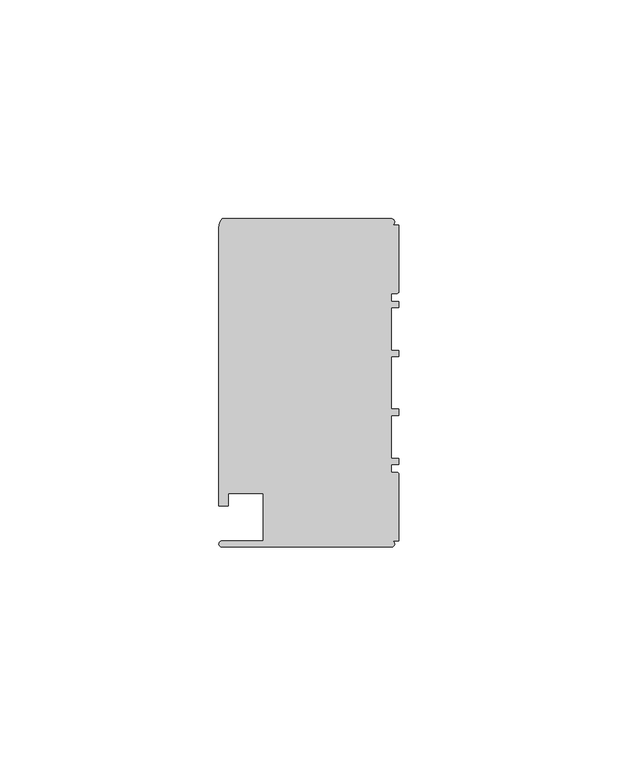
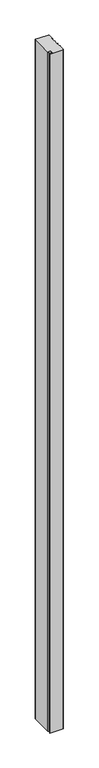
"""IFC4 building model written with IfcOpenShell, lengths in millimetres: member geometry, Прямоугольный импост : 1-AMG-1-Профиль 40Х75 Низ Л."""

from ifc_helpers import new_model, si_unit, point, frame, frame_2d, origin, place, context, project, spatial, polyline, circle_curve, trimmed, segment, composite_curve, outline, extrude, source, transform, mapped, element, save


def member_cca2f080(model_context):
    return source(origin(), model_context, "Body", "SweptSolid", [
        extrude(outline(composite_curve([segment(polyline([(-1.7, -37.5), (-40.4, -37.5)]), True, "CONTINUOUS"), segment(trimmed(circle_curve(frame_2d((-40.4, -36.8)), 0.7), [point((-40.4, -37.5))], [point((-40.4, -36.1))], False, "CARTESIAN"), True, "CONTINUOUS"), segment(polyline([(-40.4, -36.1), (-31.0, -36.1), (-31.0, -25.25), (-39.0, -25.25), (-39.0, -28.1), (-41.1, -28.1), (-41.1, 35.6)]), True, "CONTINUOUS"), segment(trimmed(circle_curve(frame_2d((-38.1714286, 35.6)), 2.9285714), [point((-41.1, 35.6))], [point((-40.4, 37.5))], False, "CARTESIAN"), True, "CONTINUOUS"), segment(polyline([(-40.4, 37.5), (-1.7, 37.5)]), True, "CONTINUOUS"), segment(trimmed(circle_curve(frame_2d((-1.7, 36.8)), 0.7), [point((-1.7, 37.5))], [point((-1.7, 36.1))], False, "CARTESIAN"), True, "CONTINUOUS"), segment(polyline([(-1.7, 36.1), (0.0, 36.1), (0.0, 20.95)]), True, "CONTINUOUS"), segment(trimmed(circle_curve(frame_2d((-0.5, 20.95)), 0.5), [point((0.0, 20.95))], [point((-0.5, 20.45))], False, "CARTESIAN"), True, "CONTINUOUS"), segment(polyline([(-0.5, 20.45), (-1.8, 20.45), (-1.8, 18.65), (0.0, 18.65), (0.0, 17.25), (-1.8, 17.25), (-1.8, 7.4), (0.0, 7.4), (0.0, 6.0), (-1.8, 6.0), (-1.8, -6.0), (0.0, -6.0), (0.0, -7.4), (-1.8, -7.4), (-1.8, -17.25), (0.0, -17.25), (0.0, -18.65), (-1.8, -18.65), (-1.8, -20.45), (-0.5, -20.45)]), True, "CONTINUOUS"), segment(trimmed(circle_curve(frame_2d((-0.5, -20.95)), 0.5), [point((-0.5, -20.45))], [point((0.0, -20.95))], False, "CARTESIAN"), True, "CONTINUOUS"), segment(polyline([(0.0, -20.95), (0.0, -36.1), (-1.7, -36.1)]), True, "CONTINUOUS"), segment(trimmed(circle_curve(frame_2d((-1.7, -36.8)), 0.7), [point((-1.7, -36.1))], [point((-1.7, -37.5))], False, "CARTESIAN"), True, "CONTINUOUS")], self_intersect=False)), frame((0.0, 0.0, -2100.0), z_axis=(0.0, 0.0, 1.0), x_axis=(1.0, 0.0, 0.0)), (0.0, 0.0, 1.0), 2100.0),
    ])


if __name__ == "__main__":
    model = new_model("IFC4")
    model_context = context("Model", 3, world=origin())
    ifc_project = project(units=[si_unit("LENGTHUNIT", "METRE", prefix="MILLI")], contexts=[model_context])
    site = spatial("IfcSite", under=ifc_project)
    building = spatial("IfcBuilding", under=site)
    placement = place(None, origin())
    member_shape = member_cca2f080(model_context)
    element("IfcMember", 1, ObjectType="Прямоугольный импост : 1-AMG-1-Профиль 40Х75 Низ Л", at=placement, inside=building, context=model_context, shape_type="MappedRepresentation", body=[
        mapped(member_shape, transform((0.0, 0.0, 0.0), x_axis=(1.0, 0.0, 0.0), y_axis=(0.0, 1.0, 0.0), z_axis=(0.0, 0.0, 1.0))),
    ])
    save(model, "model.ifc")
